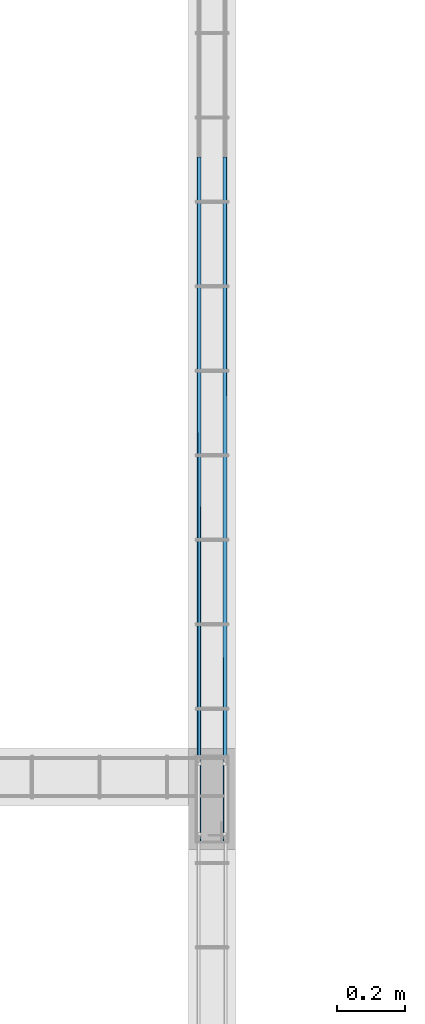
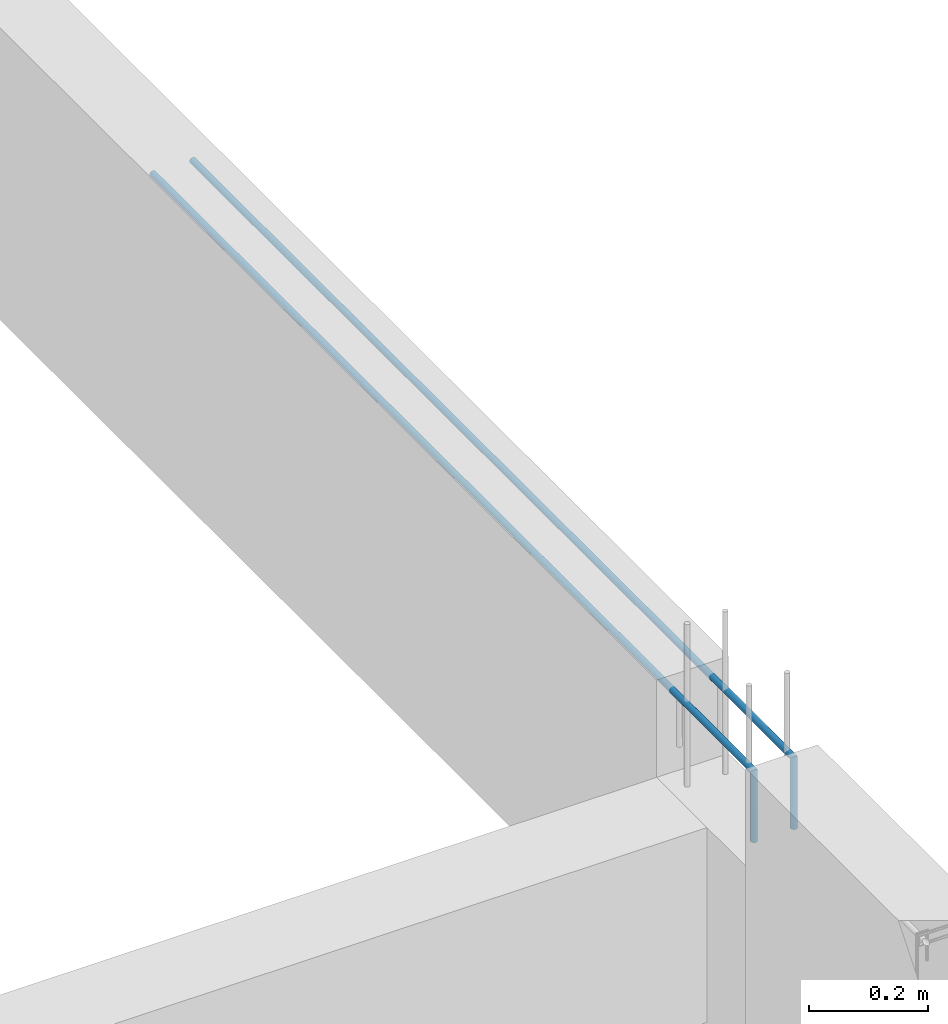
# One storey, part 27 of 236: 2 reinforcing bars.
"""IFC4 building model written with IfcOpenShell, lengths in centimetres."""

from ifc_helpers import new_model, entity, si_unit, derived_unit, frame, origin_with_axes, place, context, project, spatial, element, save


model = new_model("IFC4")

# Units and contexts
model_context = context("Model", 3, precision=1e-05, world=origin_with_axes(), identifier="Body")
ifc_project = project(units=[si_unit("LENGTHUNIT", "METRE", prefix="CENTI"), si_unit("VOLUMEUNIT", "CUBIC_METRE"), si_unit("AREAUNIT", "SQUARE_METRE"), si_unit("POWERUNIT", "WATT"), si_unit("LUMINOUSFLUXUNIT", "LUMEN"), si_unit("ELECTRICCURRENTUNIT", "AMPERE"), si_unit("PRESSUREUNIT", "PASCAL", prefix="KILO"), si_unit("MASSUNIT", "GRAM", prefix="KILO"), si_unit("PLANEANGLEUNIT", "RADIAN"), derived_unit("VOLUMETRICFLOWRATEUNIT", [(si_unit("LENGTHUNIT", "METRE"), 3), (si_unit("TIMEUNIT", "SECOND"), -1)])], contexts=[model_context])

# Site, building, storey
site_placement = place(None, frame((-4000.0, 0.0, 0.0), z_axis=(0.0, 0.0, 1.0), x_axis=(1.0, 0.0, 0.0)))
site = spatial("IfcSite", under=ifc_project, at=site_placement, Name="PADRÃO")
building_placement = place(site_placement, frame((0.0, 0.0, -14.0)))
building = spatial("IfcBuilding", under=site, at=building_placement, Name="CRECHE PRÉ-ESCOLA TIPO 2")
placement_1 = place(building_placement, origin_with_axes())
placement_2 = place(placement_1, frame((0.0, 0.0, 30.0), z_axis=(0.0, 0.0, 1.0), x_axis=(1.0, 0.0, 0.0)))
storey_placement = place(placement_2, frame((0.0, 0.0, 310.0), z_axis=(0.0, 0.0, 1.0), x_axis=(1.0, 0.0, 0.0)))
storey = spatial("IfcBuildingStorey", under=building, at=storey_placement, Name="TERREO", CompositionType="ELEMENT", Elevation=326.0)

# Reinforcing bars
for number, where, z_axis, x_axis, name in (
    (1, (1388.715, 1112.00707010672, 17.505859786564), (0.0, 0.0, 1.0), (1.0, 0.0, 0.0), "V283 - Longitudinal superior"),
    (2, (1380.965, 1112.00707010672, 17.505859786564), (0.0, 0.0, 1.0), (1.0, 0.0, 0.0), "V283 - Longitudinal superior"),
):
    element("IfcReinforcingBar", number, at=place(storey_placement, frame(where, z_axis=z_axis, x_axis=x_axis)), inside=storey, Name=name, BarLength=0.0, CrossSectionArea=0.000122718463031, NominalDiameter=1.25, PredefinedType="MAIN", context=model_context, shape_type="AdvancedSweptSolid", body=[
        entity("IfcSweptDiskSolid", entity("IfcCompositeCurve", [entity("IfcCompositeCurveSegment", "CONTINUOUS", True, entity("IfcPolyline", [entity("IfcCartesianPoint", [0.0, -100.872070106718, -15.005859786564]), entity("IfcCartesianPoint", [0.0, -100.872070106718, -0.630859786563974])])), entity("IfcCompositeCurveSegment", "CONTINUOUS", True, entity("IfcPolyline", [entity("IfcCartesianPoint", [0.0, -100.872070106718, -0.630859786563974]), entity("IfcCartesianPoint", [0.0, 101.502929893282, -0.630859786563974])]))], False), 0.625),
    ])

save(model, "model.ifc")
